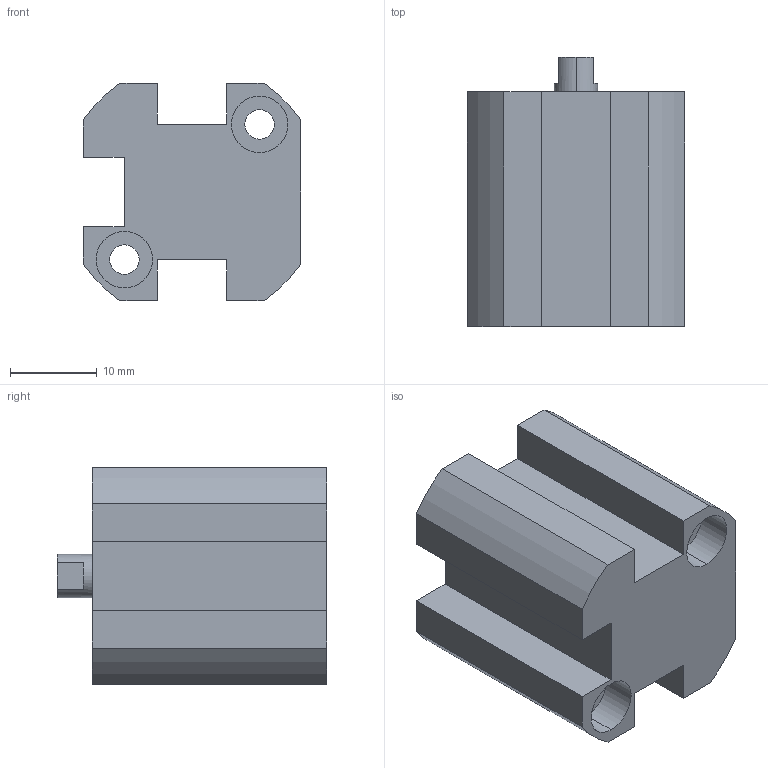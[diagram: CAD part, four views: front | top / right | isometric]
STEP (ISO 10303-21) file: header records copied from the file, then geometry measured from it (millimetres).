
FILE_DESCRIPTION (( 'STEP AP203' ), '1' );
FILE_NAME ('XC#1-10-10.STEP', '2016-05-23T07:08:52', ( '' ), ( '' ), 'SwSTEP 2.0', 'SolidWorks 2014', '' );
FILE_SCHEMA (( 'CONFIG_CONTROL_DESIGN' ));
Length unit declared in the file: millimetre
Products named in the file (1): XC#1-10-10
Bounding box: 25 x 31 x 25 mm (x, y, z)
Volume: 11810.8 mm3; surface area: 5272.6 mm2
Topology: 1 solids, 1 shells, 72 faces, 177 edges, 116 vertices
Faces by surface type: cylinder 37, plane 33, cone 2
Entity records: 2227 total; most frequent: DIRECTION 400, CARTESIAN_POINT 364, ORIENTED_EDGE 350, EDGE_CURVE 175, AXIS2_PLACEMENT_3D 152, VERTEX_POINT 116, VECTOR 96, LINE 96
